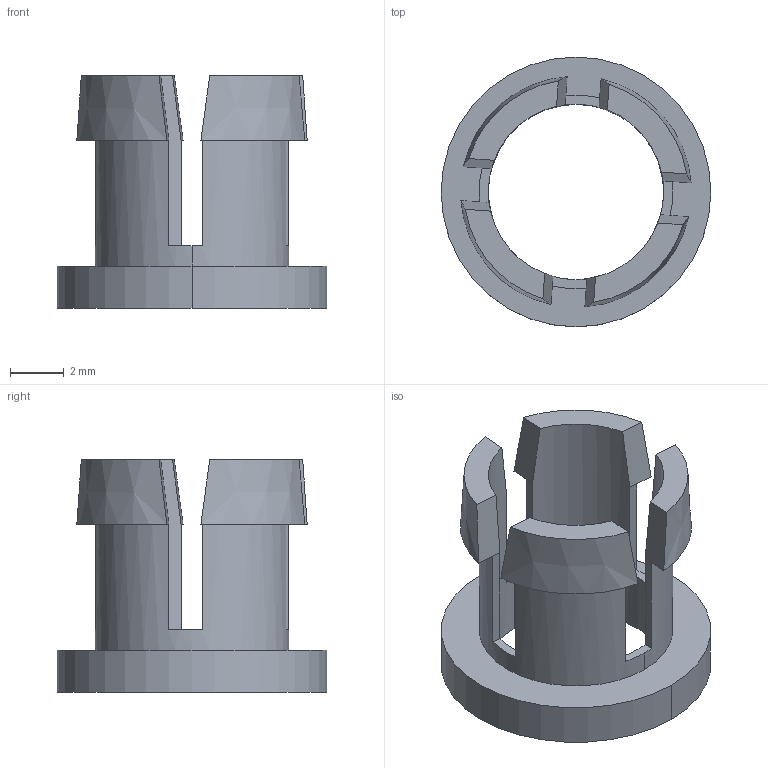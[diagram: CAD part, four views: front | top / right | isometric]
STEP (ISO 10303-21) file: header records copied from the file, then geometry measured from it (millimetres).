
FILE_DESCRIPTION (( 'STEP AP214' ), '1' );
FILE_NAME ('avt-pp-35_04.step', '2025-12-23T15:53:33', ( '' ), ( '' ), 'SwSTEP 2.0', 'SolidWorks 2026', '' );
FILE_SCHEMA (( 'AUTOMOTIVE_DESIGN' ));
Length unit declared in the file: inch
Products named in the file (1): avt-pp-35_04
Bounding box: 10.08 x 10.08 x 8.69 mm (x, y, z)
Volume: 141.5 mm3; surface area: 474.4 mm2
Topology: 1 solids, 1 shells, 40 faces, 106 edges, 68 vertices
Faces by surface type: plane 30, cylinder 6, cone 4
Entity records: 1273 total; most frequent: CARTESIAN_POINT 263, ORIENTED_EDGE 212, DIRECTION 208, EDGE_CURVE 106, AXIS2_PLACEMENT_3D 77, VERTEX_POINT 68, LINE 54, VECTOR 54
